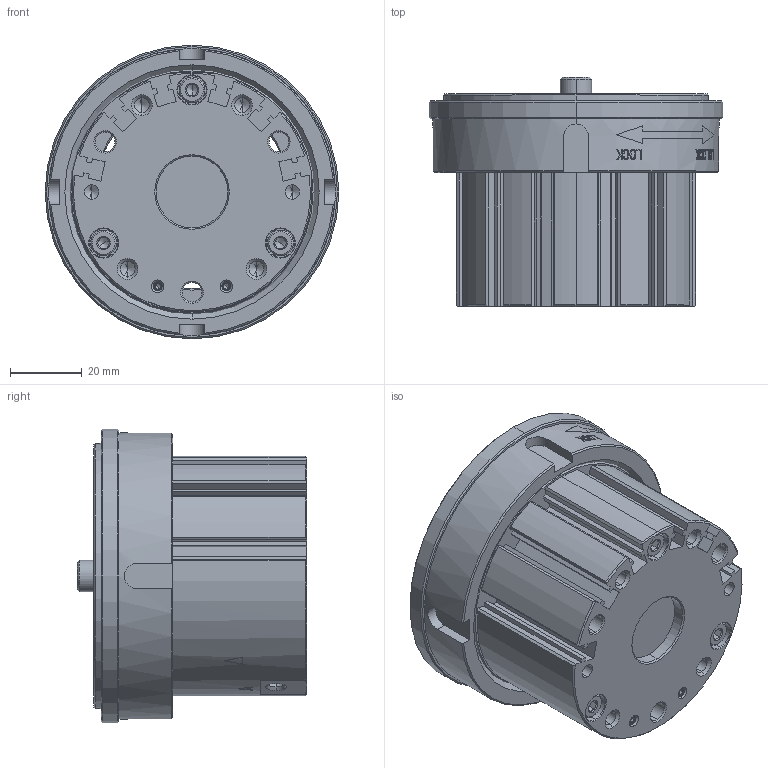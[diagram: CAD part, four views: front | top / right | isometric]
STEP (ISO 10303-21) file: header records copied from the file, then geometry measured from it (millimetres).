
FILE_DESCRIPTION (( 'STEP AP214' ), '1' );
FILE_NAME ('HP-QGBL06-61G856541-20241125-OC.STEP', '2024-11-24T23:51:37', ( '' ), ( '' ), 'SwSTEP 2.0', 'SolidWorks 2022', '' );
FILE_SCHEMA (( 'AUTOMOTIVE_DESIGN' ));
Length unit declared in the file: millimetre
Products named in the file (12): PISTON^HP-QGBL06_閉端; REAR BODY^HP-QGBL06; LOCK NUT^HP-QGBL06; PRESS BALL PLUNGER^HP-QGBL06; S-TOME^HP-QGBL06; BOLT2^HP-QGBL06; CYLINDER COVER^HP-QGBL06; PISTON HEAD^HP-QGBL06; CLAMP RING^HP-QGBL06; KNOCK PIN^HP-QGBL06; HP-QGBL06-61G856541-20241125-OC; BOLT1^HP-QGBL06
Assembly tree (16 placements, depth 2):
  HP-QGBL06-61G856541-20241125-OC
    REAR BODY^HP-QGBL06
    PISTON HEAD^HP-QGBL06
    PISTON^HP-QGBL06_閉端
    CYLINDER COVER^HP-QGBL06
    CLAMP RING^HP-QGBL06
    LOCK NUT^HP-QGBL06
    BOLT1^HP-QGBL06  x3
    BOLT2^HP-QGBL06
    S-TOME^HP-QGBL06  x2
    KNOCK PIN^HP-QGBL06
    PRESS BALL PLUNGER^HP-QGBL06  x3
Bounding box: 82 x 64 x 82 mm (x, y, z)
Volume: 193312.4 mm3; surface area: 65225.7 mm2
Topology: 16 solids, 16 shells, 1853 faces, 5009 edges, 3260 vertices
Faces by surface type: bspline 989, plane 405, cylinder 230, cone 205, torus 16, sphere 8
Entity records: 85145 total; most frequent: CARTESIAN_POINT 48206, ORIENTED_EDGE 9594, EDGE_CURVE 4797, DIRECTION 3934, B_SPLINE_CURVE_WITH_KNOTS 3155, VERTEX_POINT 3148, EDGE_LOOP 1903, ADVANCED_FACE 1774
